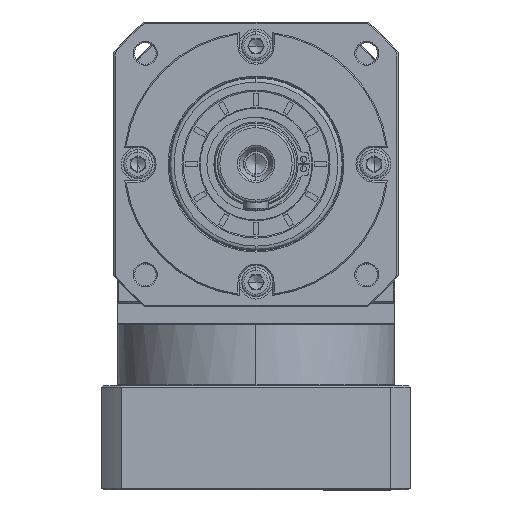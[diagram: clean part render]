
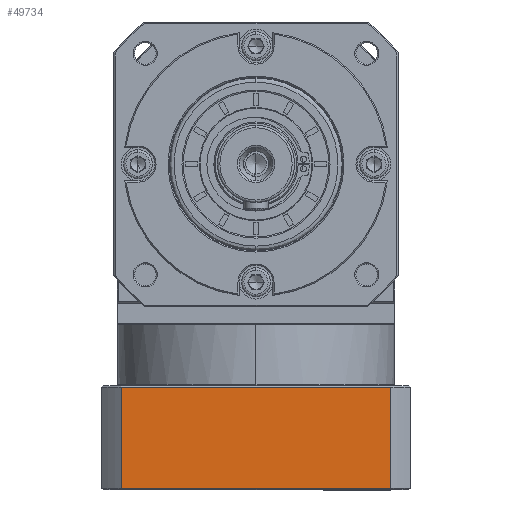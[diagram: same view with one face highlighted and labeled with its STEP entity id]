
A CAD part, top view. The second image highlights one B-rep face of the part: STEP entity #49734.
In plain terms, the highlighted planar face has unit normal (0, 0, 1).
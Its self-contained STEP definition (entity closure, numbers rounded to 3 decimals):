
#1348 = VERTEX_POINT ( 'NONE', #34474 ) ;
#5620 = VECTOR ( 'NONE', #161970, 1000. ) ;
#13070 = CARTESIAN_POINT ( 'NONE',  ( -167.425, -169.337, 71.858 ) ) ;
#26065 = LINE ( 'NONE', #148231, #5620 ) ;
#34474 = CARTESIAN_POINT ( 'NONE',  ( -167.425, -127.337, 71.858 ) ) ;
#35289 = DIRECTION ( 'NONE',  ( 1., 0., 0. ) ) ;
#41991 = VECTOR ( 'NONE', #66524, 1000. ) ;
#49734 = ADVANCED_FACE ( 'NONE', ( #85642 ), #68432, .F. ) ;
#53212 = EDGE_LOOP ( 'NONE', ( #106250, #106158, #87322, #116816 ) ) ;
#58886 = VERTEX_POINT ( 'NONE', #13070 ) ;
#64065 = CARTESIAN_POINT ( 'NONE',  ( -287.362, -127.337, 71.858 ) ) ;
#66524 = DIRECTION ( 'NONE',  ( -1., 0., 0. ) ) ;
#68432 = PLANE ( 'NONE',  #80322 ) ;
#70379 = CARTESIAN_POINT ( 'NONE',  ( -279.299, -169.337, 71.858 ) ) ;
#70417 = LINE ( 'NONE', #123199, #164964 ) ;
#80322 = AXIS2_PLACEMENT_3D ( 'NONE', #160263, #147677, #109200 ) ;
#85642 = FACE_OUTER_BOUND ( 'NONE', #53212, .T. ) ;
#87306 = VECTOR ( 'NONE', #35289, 1000. ) ;
#87322 = ORIENTED_EDGE ( 'NONE', *, *, #166802, .F. ) ;
#91207 = CARTESIAN_POINT ( 'NONE',  ( -287.362, -169.337, 71.858 ) ) ;
#99684 = LINE ( 'NONE', #64065, #87306 ) ;
#105122 = CARTESIAN_POINT ( 'NONE',  ( -279.299, -127.337, 71.858 ) ) ;
#106158 = ORIENTED_EDGE ( 'NONE', *, *, #133613, .F. ) ;
#106250 = ORIENTED_EDGE ( 'NONE', *, *, #154511, .F. ) ;
#109200 = DIRECTION ( 'NONE',  ( -1., 0., 0. ) ) ;
#116816 = ORIENTED_EDGE ( 'NONE', *, *, #146370, .F. ) ;
#123199 = CARTESIAN_POINT ( 'NONE',  ( -279.299, -169.837, 71.858 ) ) ;
#128365 = LINE ( 'NONE', #91207, #41991 ) ;
#132687 = VERTEX_POINT ( 'NONE', #105122 ) ;
#133613 = EDGE_CURVE ( 'NONE', #132687, #1348, #99684, .T. ) ;
#146370 = EDGE_CURVE ( 'NONE', #58886, #152926, #128365, .T. ) ;
#147677 = DIRECTION ( 'NONE',  ( 0., 0., -1. ) ) ;
#148231 = CARTESIAN_POINT ( 'NONE',  ( -167.425, 125.577, 71.858 ) ) ;
#149631 = DIRECTION ( 'NONE',  ( 0., 1., 0. ) ) ;
#152926 = VERTEX_POINT ( 'NONE', #70379 ) ;
#154511 = EDGE_CURVE ( 'NONE', #1348, #58886, #26065, .T. ) ;
#160263 = CARTESIAN_POINT ( 'NONE',  ( -287.362, -169.837, 71.858 ) ) ;
#161970 = DIRECTION ( 'NONE',  ( 0., -1., 0. ) ) ;
#164964 = VECTOR ( 'NONE', #149631, 1000. ) ;
#166802 = EDGE_CURVE ( 'NONE', #152926, #132687, #70417, .T. ) ;
